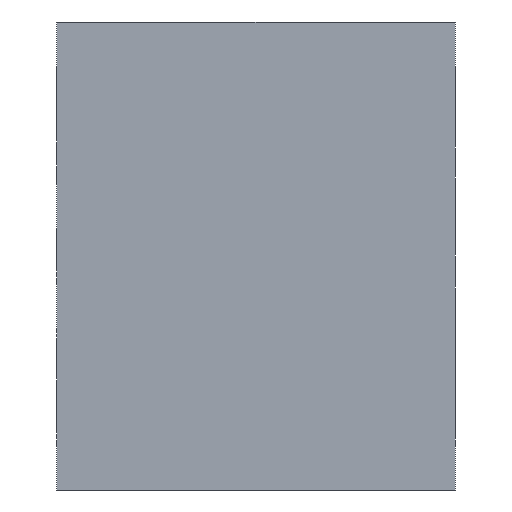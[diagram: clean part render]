
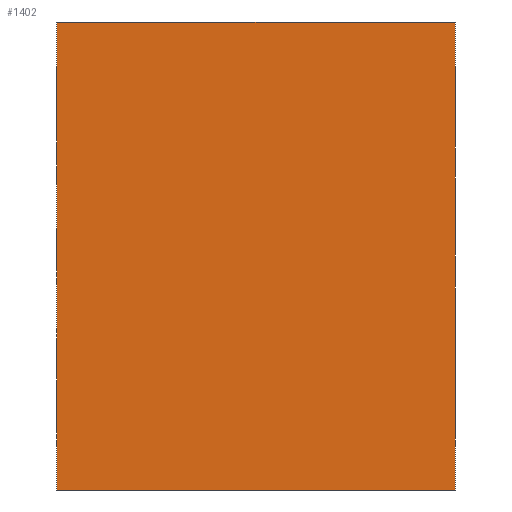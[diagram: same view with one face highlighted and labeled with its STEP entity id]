
A CAD part, left-side view. The second image highlights one B-rep face of the part: STEP entity #1402.
In plain terms, the highlighted planar face has unit normal (-1, 0, 0).
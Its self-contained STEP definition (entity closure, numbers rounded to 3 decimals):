
#1259 = VERTEX_POINT ( 'NONE', #3301 ) ;
#1261 = EDGE_CURVE ( 'NONE', #1259, #1262, #3300, .T. ) ;
#1262 = VERTEX_POINT ( 'NONE', #3296 ) ;
#1326 = EDGE_CURVE ( 'NONE', #1262, #1327, #3393, .T. ) ;
#1327 = VERTEX_POINT ( 'NONE', #3389 ) ;
#1346 = EDGE_CURVE ( 'NONE', #1416, #1259, #3416, .T. ) ;
#1402 = ADVANCED_FACE ( 'NONE', ( #3525 ), #3520, .F. ) ;
#1403 = EDGE_LOOP ( 'NONE', ( #1404, #1405, #1406, #1407 ) ) ;
#1404 = ORIENTED_EDGE ( 'NONE', *, *, #1261, .F. ) ;
#1405 = ORIENTED_EDGE ( 'NONE', *, *, #1346, .F. ) ;
#1406 = ORIENTED_EDGE ( 'NONE', *, *, #1415, .F. ) ;
#1407 = ORIENTED_EDGE ( 'NONE', *, *, #1326, .F. ) ;
#1415 = EDGE_CURVE ( 'NONE', #1327, #1416, #3512, .T. ) ;
#1416 = VERTEX_POINT ( 'NONE', #3505 ) ;
#3296 = CARTESIAN_POINT ( 'NONE',  ( -86., 16., 23.5 ) ) ;
#3297 = DIRECTION ( 'NONE',  ( 0., 0., 1. ) ) ;
#3298 = VECTOR ( 'NONE', #3297, 1000. ) ;
#3299 = CARTESIAN_POINT ( 'NONE',  ( -86., 16., -23.5 ) ) ;
#3300 = LINE ( 'NONE', #3299, #3298 ) ;
#3301 = CARTESIAN_POINT ( 'NONE',  ( -86., 16., -23.5 ) ) ;
#3389 = CARTESIAN_POINT ( 'NONE',  ( -86., -24., 23.5 ) ) ;
#3390 = DIRECTION ( 'NONE',  ( 0., -1., 0. ) ) ;
#3391 = VECTOR ( 'NONE', #3390, 1000. ) ;
#3392 = CARTESIAN_POINT ( 'NONE',  ( -86., 16., 23.5 ) ) ;
#3393 = LINE ( 'NONE', #3392, #3391 ) ;
#3413 = DIRECTION ( 'NONE',  ( 0., 1., 0. ) ) ;
#3414 = VECTOR ( 'NONE', #3413, 1000. ) ;
#3415 = CARTESIAN_POINT ( 'NONE',  ( -86., -24., -23.5 ) ) ;
#3416 = LINE ( 'NONE', #3415, #3414 ) ;
#3505 = CARTESIAN_POINT ( 'NONE',  ( -86., -24., -23.5 ) ) ;
#3506 = DIRECTION ( 'NONE',  ( 0., 0., -1. ) ) ;
#3507 = VECTOR ( 'NONE', #3506, 1000. ) ;
#3508 = CARTESIAN_POINT ( 'NONE',  ( -86., -24., 23.5 ) ) ;
#3512 = LINE ( 'NONE', #3508, #3507 ) ;
#3515 = DIRECTION ( 'NONE',  ( 0., 1., 0. ) ) ;
#3516 = DIRECTION ( 'NONE',  ( 1., 0., 0. ) ) ;
#3517 = CARTESIAN_POINT ( 'NONE',  ( -86., 0., 0. ) ) ;
#3519 = AXIS2_PLACEMENT_3D ( 'NONE', #3517, #3516, #3515 ) ;
#3520 = PLANE ( 'NONE',  #3519 ) ;
#3525 = FACE_OUTER_BOUND ( 'NONE', #1403, .T. ) ;
